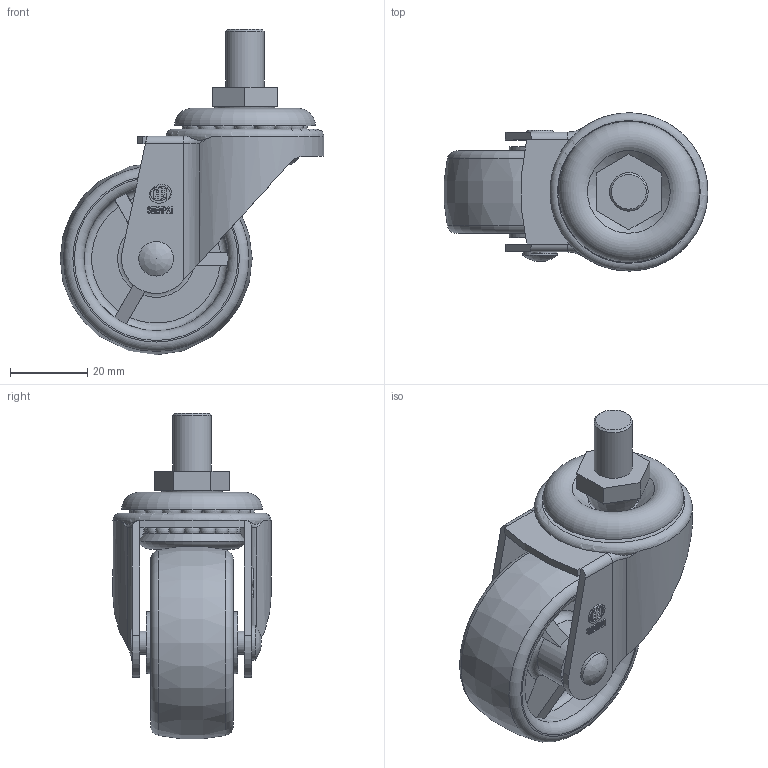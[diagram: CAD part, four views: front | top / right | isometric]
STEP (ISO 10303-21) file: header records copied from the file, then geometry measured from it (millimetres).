
FILE_DESCRIPTION(/* description */ (''),/* implementation_level */ '2;1');
FILE_NAME(/* name */ '10A15_2_F.stp',/* time_stamp */ '2022-10-06T13:45:12+08:00',/* author */ (''),/* organization */ (''),/* preprocessor_version */ 'ST-DEVELOPER v14',/* originating_system */ 'SIEMENS PLM Software NX 8.0',/* authorisation */ '');
FILE_SCHEMA (('AUTOMOTIVE_DESIGN { 1 0 10303 214 3 1 1 1 }'));
Length unit declared in the file: millimetre
Products named in the file (1): 10A15_2_F
Bounding box: 68.38 x 41 x 84.38 mm (x, y, z)
Volume: 42257.6 mm3; surface area: 26311.4 mm2
Topology: 1 solids, 1 shells, 363 faces, 1064 edges, 705 vertices
Faces by surface type: plane 221, cylinder 55, torus 46, sphere 32, cone 7, bspline 2
Full cylindrical faces by diameter (mm): 5 x1, 6 x2, 6.2 x2, 9 x1, 10 x2, 10.2 x2, 12.8 x1, 16 x2, 37.4 x2
Entity records: 15387 total; most frequent: CARTESIAN_POINT 6673, ORIENTED_EDGE 1848, DIRECTION 1642, EDGE_CURVE 924, VERTEX_POINT 638, AXIS2_PLACEMENT_3D 600, EDGE_LOOP 471, LINE 442
